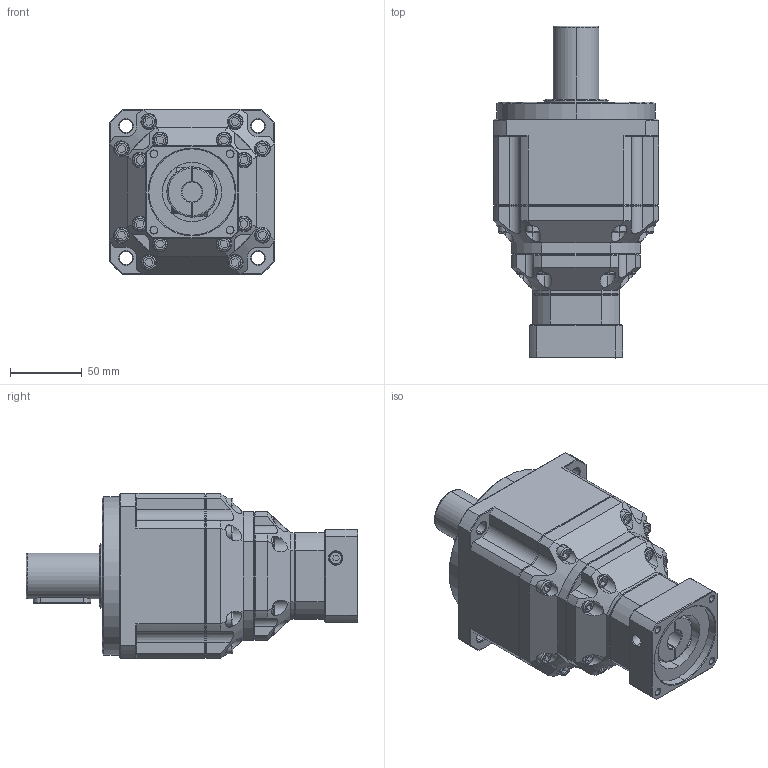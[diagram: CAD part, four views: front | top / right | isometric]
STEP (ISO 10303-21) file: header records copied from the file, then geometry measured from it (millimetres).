
FILE_DESCRIPTION (( 'STEP AP214' ), '1' );
FILE_NAME ('ZPB115-D32-L3-P1-14-60-75-M5.step', '2024-06-12T09:56:17', ( 'Windows 蚚誧' ), ( 'Organization' ), 'SwSTEP 2.0', 'SolidWorks 2016', '' );
FILE_SCHEMA (( 'AUTOMOTIVE_DESIGN' ));
Length unit declared in the file: millimetre
Products named in the file (1): ZPB115-D32-L3-P1-14-60-75-M5
Bounding box: 115 x 231 x 115 mm (x, y, z)
Surface area: 114509.5 mm2 (no closed solid volume)
Topology: 0 solids, 2 shells, 1968 faces, 5304 edges, 3449 vertices
Faces by surface type: plane 1122, bspline 414, cylinder 257, cone 175
Full cylindrical faces by diameter (mm): 10.2 x4
Entity records: 105960 total; most frequent: CARTESIAN_POINT 52069, ORIENTED_EDGE 10410, DIRECTION 7803, EDGE_CURVE 5214, LINE 3409, VECTOR 3409, VERTEX_POINT 3385, AXIS2_PLACEMENT_3D 2197
